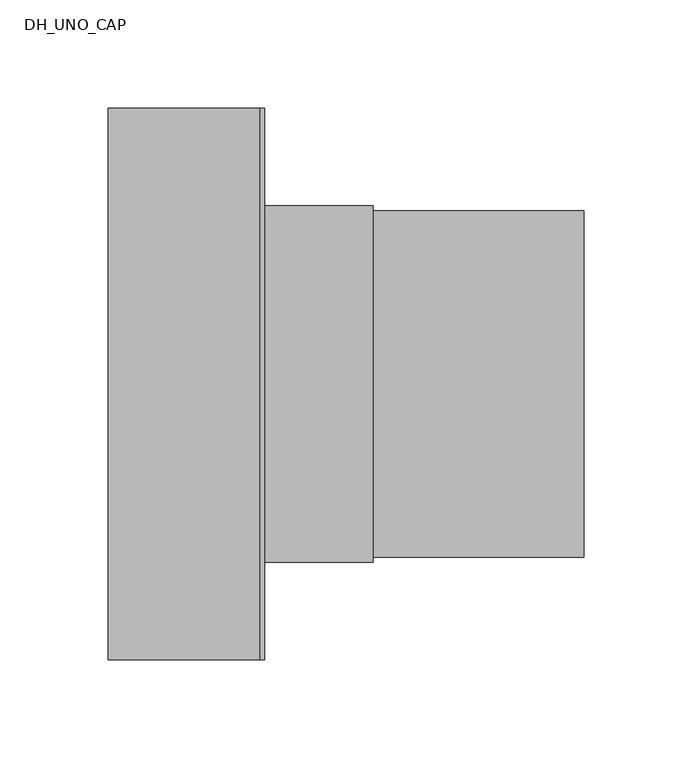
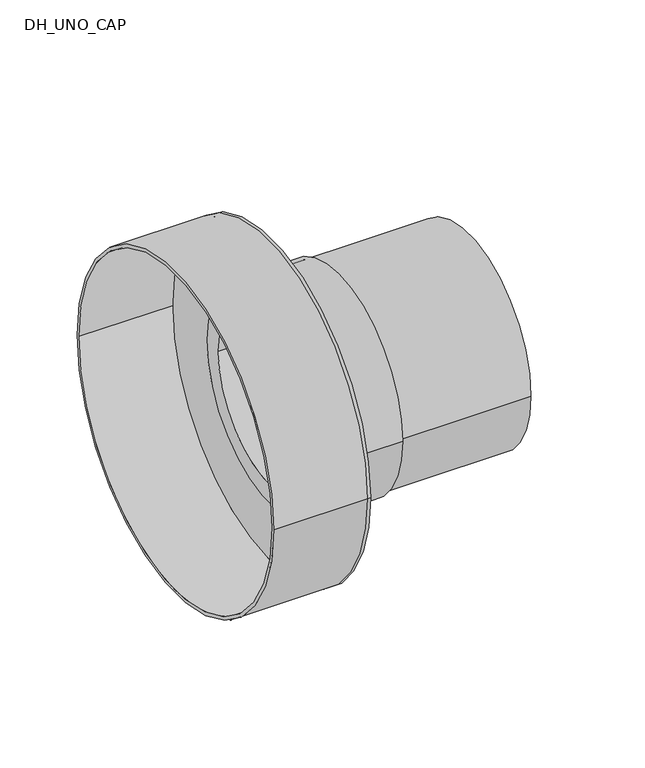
"""IFC4 building model written with IfcOpenShell, lengths in millimetres: pipe fitting geometry, DH_UNO_CAP : INSULPEX UNO 11 Heating - Rubber Cap."""

import ifcopenshell
import ifcopenshell.guid

model = None  # the IFC model being written
_history = None  # IfcOwnerHistory: only IFC2X3 demands one
_inside = {}  # id of a spatial element -> (the spatial element, [elements in it])
_under = {}  # id of a project, library or spatial element -> (it, [spatial elements below it])
_declared = {}  # id of a project -> (the project, [libraries it declares])
_typed = {}  # id of a type object -> (the type object, [elements of that type])
_made_of = {}  # id of a material, layer set ... -> (it, [elements and type objects made of it])


def new_model(schema):
    """Start an empty IFC model of exactly this schema.

    Asked for "IFC4X3", IfcOpenShell would pick the latest addendum, in which some entities
    have other attributes; the version numbers below select the first issue.
    IFC2X3 requires an IfcOwnerHistory on every rooted entity: one is made here for all.
    """
    global model, _history
    if schema == "IFC4X3":
        model = ifcopenshell.file(schema_version=(4, 3, 0, 0))
    else:
        model = ifcopenshell.file(schema=schema)
    _inside.clear()
    _under.clear()
    _declared.clear()
    _typed.clear()
    _made_of.clear()
    _history = None
    if model.schema == "IFC2X3":
        org = make("IfcOrganization", Name="unknown")
        user = make(
            "IfcPersonAndOrganization",
            ThePerson=make("IfcPerson", FamilyName="unknown"),
            TheOrganization=org,
        )
        app = make(
            "IfcApplication",
            ApplicationDeveloper=org,
            Version="unknown",
            ApplicationFullName="unknown",
            ApplicationIdentifier="unknown",
        )
        _history = make(
            "IfcOwnerHistory",
            OwningUser=user,
            OwningApplication=app,
            ChangeAction="ADDED",
            CreationDate=0,
        )
    return model


def make(cls, **values):
    """One entity of the class cls with the attributes given. An attribute that is None is left unset."""
    return model.create_entity(
        cls, **{name: value for name, value in values.items() if value is not None}
    )


def rooted(cls, **values):
    """An entity with a GlobalId (a new one), such as an element, a storey or a relation."""
    return make(cls, GlobalId=ifcopenshell.guid.new(), OwnerHistory=_history, **values)


def si_unit(unit_type, name, prefix=None):
    """IfcSIUnit, for example si_unit("LENGTHUNIT", "METRE", prefix="MILLI")."""
    return make("IfcSIUnit", UnitType=unit_type, Prefix=prefix, Name=name)


def assignment(units):
    """IfcUnitAssignment: the units of a project."""
    return None if units is None else make("IfcUnitAssignment", Units=units)


def point(xyz):
    """IfcCartesianPoint."""
    return None if xyz is None else make("IfcCartesianPoint", Coordinates=xyz)


def direction(xyz):
    """IfcDirection."""
    return None if xyz is None else make("IfcDirection", DirectionRatios=xyz)


def frame(location, z_axis=None, x_axis=None):
    """IfcAxis2Placement3D, a coordinate frame: its origin and axes. An axis left out is left unset."""
    return make(
        "IfcAxis2Placement3D",
        Location=point(location),
        Axis=direction(z_axis),
        RefDirection=direction(x_axis),
    )


def frame_2d(location, x_axis=None):
    """IfcAxis2Placement2D, a coordinate frame in the plane: its origin and x axis."""
    return make(
        "IfcAxis2Placement2D", Location=point(location), RefDirection=direction(x_axis)
    )


def origin():
    """The frame at (0, 0, 0) with its axes left unset."""
    return frame((0.0, 0.0, 0.0))


def origin_2d():
    """The frame at (0, 0) in the plane with its x axis left unset."""
    return frame_2d((0.0, 0.0))


def place(relative_to, where):
    """IfcLocalPlacement: puts the frame where relative to a parent placement (None: the world)."""
    return make(
        "IfcLocalPlacement", PlacementRelTo=relative_to, RelativePlacement=where
    )


def context(
    kind, dimensions, precision=None, world=None, true_north=None, identifier=None
):
    """IfcGeometricRepresentationContext, for example the 3D "Model" context."""
    return make(
        "IfcGeometricRepresentationContext",
        ContextIdentifier=identifier,
        ContextType=kind,
        CoordinateSpaceDimension=dimensions,
        Precision=precision,
        WorldCoordinateSystem=world,
        TrueNorth=true_north,
    )


def project(units=None, contexts=None):
    """IfcProject with its units and contexts."""
    return rooted(
        "IfcProject",
        Name="project",
        RepresentationContexts=contexts,
        UnitsInContext=assignment(units),
    )


def spatial(cls, under=None, at=None, **own):
    """A site, building, storey or space (cls), placed at a placement, below another one or the project."""
    s = rooted(cls, ObjectPlacement=at, **own)
    if under is not None:
        _under.setdefault(under.id(), (under, []))[1].append(s)
    return s


def polyline(points):
    """IfcPolyline through the points."""
    return make("IfcPolyline", Points=[point(p) for p in points])


def circle_curve(where, radius):
    """IfcCircle in the frame where."""
    return make("IfcCircle", Position=where, Radius=radius)


def trimmed(basis, trim1, trim2, sense, master):
    """IfcTrimmedCurve: the piece of a basis curve between two trims."""
    return make(
        "IfcTrimmedCurve",
        BasisCurve=basis,
        Trim1=trim1,
        Trim2=trim2,
        SenseAgreement=sense,
        MasterRepresentation=master,
    )


def segment(curve, same_sense, transition):
    """IfcCompositeCurveSegment."""
    return make(
        "IfcCompositeCurveSegment",
        Transition=transition,
        SameSense=same_sense,
        ParentCurve=curve,
    )


def composite_curve(segments, self_intersect=None):
    """IfcCompositeCurve: segments joined end to end."""
    return make("IfcCompositeCurve", Segments=segments, SelfIntersect=self_intersect)


def outline(outer, holes=None, kind="AREA"):
    """IfcArbitraryClosedProfileDef: a profile drawn as a closed curve; with holes, ...WithVoids."""
    if holes is None:
        return make("IfcArbitraryClosedProfileDef", ProfileType=kind, OuterCurve=outer)
    return make(
        "IfcArbitraryProfileDefWithVoids",
        ProfileType=kind,
        OuterCurve=outer,
        InnerCurves=holes,
    )


def extrude(swept, where, along, depth):
    """IfcExtrudedAreaSolid: the profile swept, set in the frame where, extruded along a direction by depth."""
    return make(
        "IfcExtrudedAreaSolid",
        SweptArea=swept,
        Position=where,
        ExtrudedDirection=direction(along),
        Depth=depth,
    )


def shape(context_of_items, identifier, shape_type, items):
    """IfcShapeRepresentation: the items that make up one representation, for example the "Body"."""
    return make(
        "IfcShapeRepresentation",
        ContextOfItems=context_of_items,
        RepresentationIdentifier=identifier,
        RepresentationType=shape_type,
        Items=items,
    )


def source(mapping_origin, context_of_items, identifier, shape_type, items):
    """IfcRepresentationMap: a shape defined once, which mapped items show again and again."""
    return make(
        "IfcRepresentationMap",
        MappingOrigin=mapping_origin,
        MappedRepresentation=shape(context_of_items, identifier, shape_type, items),
    )


def transform(
    local_origin,
    x_axis=None,
    y_axis=None,
    z_axis=None,
    scale=None,
    scale2=None,
    scale3=None,
    uniform=True,
):
    """IfcCartesianTransformationOperator3D, or its non-uniform kind. x_axis, y_axis, z_axis: its Axis1, 2, 3."""
    if uniform:
        return make(
            "IfcCartesianTransformationOperator3D",
            Axis1=direction(x_axis),
            Axis2=direction(y_axis),
            LocalOrigin=point(local_origin),
            Scale=scale,
            Axis3=direction(z_axis),
        )
    return make(
        "IfcCartesianTransformationOperator3DnonUniform",
        Axis1=direction(x_axis),
        Axis2=direction(y_axis),
        LocalOrigin=point(local_origin),
        Scale=scale,
        Axis3=direction(z_axis),
        Scale2=scale2,
        Scale3=scale3,
    )


def mapped(mapping_source, mapping_target):
    """IfcMappedItem: shows the shape of a source again, moved by a transform."""
    return make(
        "IfcMappedItem", MappingSource=mapping_source, MappingTarget=mapping_target
    )


def made_of(thing, what):
    """Note that an element or type object is made of a material, layer set ...; save() writes the relation."""
    if what is not None:
        _made_of.setdefault(what.id(), (what, []))[1].append(thing)
    return thing


def element(
    cls,
    number,
    at=None,
    inside=None,
    cuts=None,
    type_object=None,
    material=None,
    context=None,
    identifier="Body",
    shape_type=None,
    held_by="IfcProductDefinitionShape",
    body=None,
    shapes=None,
    **own,
):
    """One element of the class cls, such as IfcWall. Its Tag is "e" and its number.

    at: its placement. inside: the storey or other place that contains it. cuts: it is an
    opening in that element (IfcRelVoidsElement). A single representation is given by context,
    identifier, shape_type and body (its items); several are given by shapes. held_by: the class
    of the entity that holds the representations. save() writes the other relations.
    """
    e = rooted(cls, Tag="e%d" % number, ObjectPlacement=at, **own)
    if body is not None:
        shapes = [shape(context, identifier, shape_type, body)]
    if shapes is not None:
        e.Representation = make(held_by, Representations=shapes)
    if inside is not None:
        _inside.setdefault(inside.id(), (inside, []))[1].append(e)
    if cuts is not None:
        rooted(
            "IfcRelVoidsElement", RelatingBuildingElement=cuts, RelatedOpeningElement=e
        )
    if type_object is not None:
        _typed.setdefault(type_object.id(), (type_object, []))[1].append(e)
    return made_of(e, material)


def aggregate(whole, parts):
    """IfcRelAggregates: a whole, such as a stair, and the parts it consists of."""
    return rooted("IfcRelAggregates", RelatingObject=whole, RelatedObjects=parts)


def save(model, path):
    """Write the relations noted so far, then the file.

    IfcRelAggregates (storeys below a building ...), IfcRelContainedInSpatialStructure (elements
    in a storey), IfcRelDefinesByType, IfcRelAssociatesMaterial and IfcRelDeclares: one each for
    every whole, place, type object, material and project.
    """
    for whole, parts in _under.values():
        aggregate(whole, parts)
    for where, things in _inside.values():
        rooted(
            "IfcRelContainedInSpatialStructure",
            RelatedElements=things,
            RelatingStructure=where,
        )
    for kind, things in _typed.values():
        rooted("IfcRelDefinesByType", RelatedObjects=things, RelatingType=kind)
    for what, things in _made_of.values():
        rooted("IfcRelAssociatesMaterial", RelatedObjects=things, RelatingMaterial=what)
    for by, libraries in _declared.values():
        rooted("IfcRelDeclares", RelatingContext=by, RelatedDefinitions=libraries)
    model.write(path)


def plane_surface(at):
    """IfcPlane: the flat surface through the origin of the frame at, square to its z axis."""
    return make("IfcPlane", Position=at)


def cylinder_surface(at, radius):
    """IfcCylindricalSurface: all points at the distance radius from the z axis of the frame at."""
    return make("IfcCylindricalSurface", Position=at, Radius=radius)


def revolved_surface(curve, axis_point, axis_direction):
    """IfcSurfaceOfRevolution: the curve turned about the line through axis_point along axis_direction."""
    return make(
        "IfcSurfaceOfRevolution",
        SweptCurve=make("IfcArbitraryOpenProfileDef", ProfileType="CURVE", Curve=curve),
        AxisPosition=make("IfcAxis1Placement", Location=point(axis_point), Axis=direction(axis_direction)),
    )


def advanced_brep(points, edges, surfaces, faces):
    """IfcAdvancedBrep: a solid bounded by faces that lie on surfaces and meet in shared edges.

    An edge is (start, end): straight between two places in points (the first is 0);
    or (start, end, curve); or (start, end, curve, False) where it runs against its curve.
    A face is (place in surfaces, loops), or (place, loops, False) where it looks against
    its surface's normal. A loop lists edges by number (the first is 1), with a minus sign
    where the edge is run from its end to its start. The first loop is the outer one.
    """
    corners = [point(p) for p in points]
    vertices = [make("IfcVertexPoint", VertexGeometry=c) for c in corners]
    made = []
    for start, end, *more in edges:
        made.append(
            make(
                "IfcEdgeCurve",
                EdgeStart=vertices[start],
                EdgeEnd=vertices[end],
                EdgeGeometry=more[0] if more else make("IfcPolyline", Points=[corners[start], corners[end]]),
                SameSense=more[1] if len(more) > 1 else True,
            )
        )
    hull = []
    for where, loops, *sense in faces:
        bounds = []
        for j, loop in enumerate(loops):
            ring = [make("IfcOrientedEdge", EdgeElement=made[abs(k) - 1], Orientation=k > 0) for k in loop]
            bounds.append(
                make(
                    "IfcFaceOuterBound" if j == 0 else "IfcFaceBound",
                    Bound=make("IfcEdgeLoop", EdgeList=ring),
                    Orientation=True,
                )
            )
        hull.append(make("IfcAdvancedFace", Bounds=bounds, FaceSurface=surfaces[where], SameSense=sense[0] if sense else True))
    return make("IfcAdvancedBrep", Outer=make("IfcClosedShell", CfsFaces=hull))


def dh_uno_cap_330119eb(model_context):
    return source(origin(), model_context, "Body", "SolidModel", [
        extrude(outline(composite_curve([segment(trimmed(circle_curve(origin_2d(), 80.0), [point((-80.0, 0.0))], [point((80.0, 0.0))], False, "CARTESIAN"), True, "CONTINUOUS"), segment(trimmed(circle_curve(origin_2d(), 80.0), [point((80.0, 0.0))], [point((-80.0, 0.0))], False, "CARTESIAN"), True, "CONTINUOUS")], self_intersect=False), holes=[composite_curve([segment(trimmed(circle_curve(origin_2d(), 65.4), [point((-65.4, 0.0))], [point((65.4, 0.0))], True, "CARTESIAN"), True, "CONTINUOUS"), segment(trimmed(circle_curve(origin_2d(), 65.4), [point((65.4, 0.0))], [point((-65.4, 0.0))], True, "CARTESIAN"), True, "CONTINUOUS")], self_intersect=False)]), frame((0.0, 0.0, 0.0), z_axis=(1.0, 0.0, 0.0), x_axis=(0.0, 1.0, 0.0)), (0.0, 0.0, 1.0), 150.0),
        advanced_brep(
        [(-70.0, -127.5, 0.0), (-70.0, 127.5, 0.0), (-70.0, -125.0, 0.0), (-70.0, 125.0, 0.0), (0.0, -125.0, 0.0), (0.0, 125.0, 0.0), (0.0, -127.5, 0.0), (0.0, 127.5, 0.0), (0.0, 80.0, 0.0), (0.0, -80.0, 0.0), (2.5, -127.5, 0.0), (2.5, 127.5, 0.0), (2.5, -80.0, 0.0), (2.5, 80.0, 0.0)],
        [
            (0, 1, circle_curve(frame((-70.0, 0.0, 0.0), z_axis=(-1.0, 0.0, 0.0), x_axis=(0.0, 1.0, 0.0)), 127.5)),
            (1, 0, circle_curve(frame((-70.0, 0.0, 0.0), z_axis=(-1.0, 0.0, 0.0), x_axis=(0.0, 1.0, 0.0)), 127.5)),
            (2, 3, circle_curve(frame((-70.0, 0.0, 0.0), z_axis=(1.0, 0.0, 0.0), x_axis=(0.0, 1.0, 0.0)), 125.0)),
            (3, 2, circle_curve(frame((-70.0, 0.0, 0.0), z_axis=(1.0, 0.0, 0.0), x_axis=(0.0, 1.0, 0.0)), 125.0)),
            (2, 4),
            (4, 5, circle_curve(frame((0.0, 0.0, 0.0), z_axis=(1.0, 0.0, 0.0), x_axis=(0.0, 1.0, 0.0)), 125.0)),
            (5, 3),
            (5, 4, circle_curve(frame((0.0, 0.0, 0.0), z_axis=(1.0, 0.0, 0.0), x_axis=(0.0, 1.0, 0.0)), 125.0)),
            (0, 6),
            (6, 7, circle_curve(frame((0.0, 0.0, 0.0), z_axis=(-1.0, 0.0, 0.0), x_axis=(0.0, 1.0, 0.0)), 127.5)),
            (7, 1),
            (7, 6, circle_curve(frame((0.0, 0.0, 0.0), z_axis=(-1.0, 0.0, 0.0), x_axis=(0.0, 1.0, 0.0)), 127.5)),
            (8, 9, circle_curve(frame((0.0, 0.0, 0.0), z_axis=(1.0, 0.0, 0.0), x_axis=(0.0, 1.0, 0.0)), 80.0)),
            (9, 8, circle_curve(frame((0.0, 0.0, 0.0), z_axis=(1.0, 0.0, 0.0), x_axis=(0.0, 1.0, 0.0)), 80.0)),
            (10, 11, circle_curve(frame((2.5, 0.0, 0.0), z_axis=(1.0, 0.0, 0.0), x_axis=(0.0, 1.0, 0.0)), 127.5)),
            (11, 10, circle_curve(frame((2.5, 0.0, 0.0), z_axis=(1.0, 0.0, 0.0), x_axis=(0.0, 1.0, 0.0)), 127.5)),
            (12, 13, circle_curve(frame((2.5, 0.0, 0.0), z_axis=(-1.0, 0.0, 0.0), x_axis=(0.0, 1.0, 0.0)), 80.0)),
            (13, 12, circle_curve(frame((2.5, 0.0, 0.0), z_axis=(-1.0, 0.0, 0.0), x_axis=(0.0, 1.0, 0.0)), 80.0)),
            (11, 7),
            (6, 10),
            (8, 13),
            (12, 9),
        ],
        [
            plane_surface(frame((-70.0, 0.0, 0.0), z_axis=(-1.0, 0.0, 0.0), x_axis=(0.0, 0.0, 1.0))),
            revolved_surface(polyline([(0.0, 125.0, 0.0), (-70.0, 125.0, 0.0)]), (-70.0, 0.0, 0.0), (1.0, 0.0, 0.0)),
            cylinder_surface(frame((-70.0, 0.0, 0.0), z_axis=(-1.0, 0.0, 0.0), x_axis=(0.0, 1.0, 0.0)), 127.5),
            plane_surface(frame((0.0, 0.0, 0.0), z_axis=(-1.0, 0.0, 0.0), x_axis=(0.0, 0.0, 1.0))),
            plane_surface(frame((2.5, 0.0, 0.0), z_axis=(1.0, 0.0, 0.0), x_axis=(0.0, 0.0, 1.0))),
            cylinder_surface(frame((0.0, 0.0, 0.0), z_axis=(-1.0, 0.0, 0.0), x_axis=(0.0, 1.0, 0.0)), 127.5),
            revolved_surface(polyline([(0.0, 80.0, 0.0), (2.5, 80.0, 0.0)]), (0.0, 0.0, 0.0), (-1.0, 0.0, 0.0)),
        ],
        [
            (0, [[1, 2], [3, 4]]),
            (1, [[-3, 5, 6, 7]]),
            (1, [[-4, -7, 8, -5]]),
            (2, [[-1, 9, 10, 11]]),
            (2, [[-2, -11, 12, -9]]),
            (3, [[-6, -8], [13, 14]]),
            (4, [[15, 16], [17, 18]]),
            (5, [[-16, 19, -10, 20]]),
            (5, [[-15, -20, -12, -19]]),
            (6, [[21, -17, 22, -13]]),
            (6, [[-21, -14, -22, -18]]),
        ],
    ),
        extrude(outline(composite_curve([segment(trimmed(circle_curve(origin_2d(), 82.5), [point((-82.5, 0.0))], [point((82.5, 0.0))], False, "CARTESIAN"), True, "CONTINUOUS"), segment(trimmed(circle_curve(origin_2d(), 82.5), [point((82.5, 0.0))], [point((-82.5, 0.0))], False, "CARTESIAN"), True, "CONTINUOUS")], self_intersect=False), holes=[composite_curve([segment(trimmed(circle_curve(origin_2d(), 80.0), [point((-80.0, 0.0))], [point((80.0, 0.0))], True, "CARTESIAN"), True, "CONTINUOUS"), segment(trimmed(circle_curve(origin_2d(), 80.0), [point((80.0, 0.0))], [point((-80.0, 0.0))], True, "CARTESIAN"), True, "CONTINUOUS")], self_intersect=False)]), frame((2.5, 0.0, 0.0), z_axis=(1.0, 0.0, 0.0), x_axis=(0.0, 1.0, 0.0)), (0.0, 0.0, 1.0), 50.0),
    ])


if __name__ == "__main__":
    model = new_model("IFC4")
    model_context = context("Model", 3, world=origin())
    ifc_project = project(units=[si_unit("LENGTHUNIT", "METRE", prefix="MILLI")], contexts=[model_context])
    site = spatial("IfcSite", under=ifc_project)
    building = spatial("IfcBuilding", under=site)
    placement = place(None, origin())
    dh_uno_cap_shape = dh_uno_cap_330119eb(model_context)
    element("IfcPipeFitting", 1, ObjectType="DH_UNO_CAP : INSULPEX UNO 11 Heating - Rubber Cap", at=placement, inside=building, context=model_context, shape_type="MappedRepresentation", body=[
        mapped(dh_uno_cap_shape, transform((0.0, 0.0, 0.0), x_axis=(1.0, 0.0, 0.0), y_axis=(0.0, 1.0, 0.0), z_axis=(0.0, 0.0, 1.0))),
    ])
    save(model, "model.ifc")
